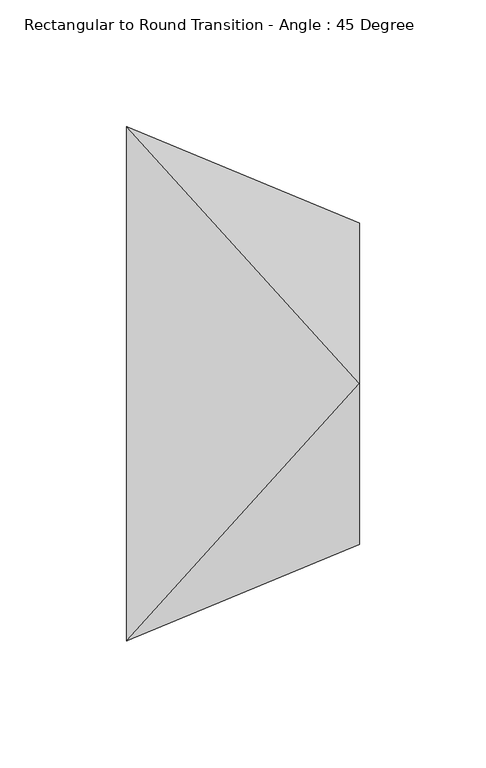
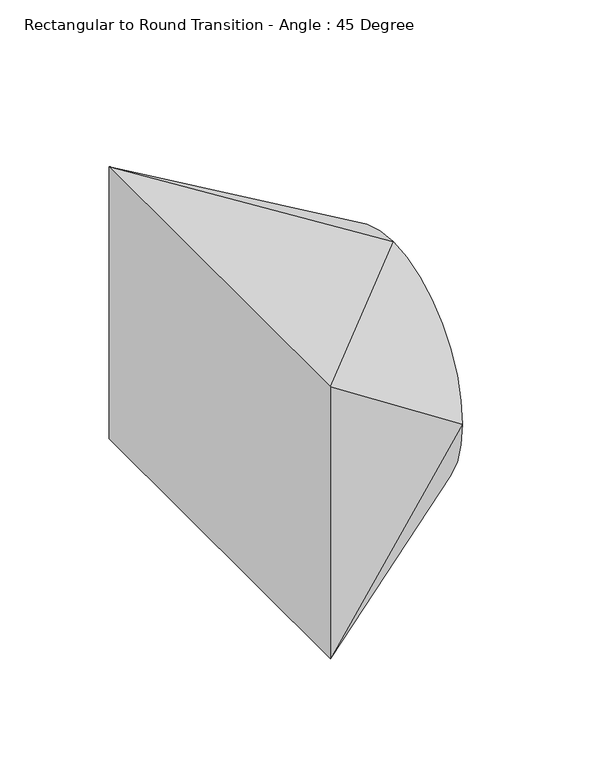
"""IFC4 building model written with IfcOpenShell, lengths in millimetres: duct fitting geometry, Rectangular to Round Transition - Angle : 45 Degree."""

from ifc_helpers import new_model, si_unit, frame, origin, place, context, project, spatial, circle_curve, source, transform, mapped, element, save
from ifc_brep_helpers import plane_surface, spline_surface, advanced_brep


def rectangular_to_round_transition_angle_45_degree_4c5d7f98(model_context):
    return source(origin(), model_context, "Body", "AdvancedBrep", [
        advanced_brep(
        [(91.9815367, 0.0, 63.5), (91.9815367, -63.5, 0.0), (91.9815367, 0.0, -63.5), (91.9815367, 63.5, 0.0), (0.0, -101.6, 76.2), (0.0, 101.6, 76.2), (0.0, 101.6, -76.2), (0.0, -101.6, -76.2)],
        [
            (0, 1, circle_curve(frame((91.9815367, 0.0, 0.0), z_axis=(1.0, 0.0, 0.0), x_axis=(0.0, 1.0, 0.0)), 63.5)),
            (1, 2, circle_curve(frame((91.9815367, 0.0, 0.0), z_axis=(1.0, 0.0, 0.0), x_axis=(0.0, 1.0, 0.0)), 63.5)),
            (2, 3, circle_curve(frame((91.9815367, 0.0, 0.0), z_axis=(1.0, 0.0, 0.0), x_axis=(0.0, 1.0, 0.0)), 63.5)),
            (3, 0, circle_curve(frame((91.9815367, 0.0, 0.0), z_axis=(1.0, 0.0, 0.0), x_axis=(0.0, 1.0, 0.0)), 63.5)),
            (4, 5),
            (5, 6),
            (6, 7),
            (7, 4),
            (0, 4),
            (4, 1),
            (7, 1),
            (7, 2),
            (6, 2),
            (6, 3),
            (5, 3),
            (5, 0),
        ],
        [
            plane_surface(frame((91.9815367, 0.0, 0.0), z_axis=(1.0, 0.0, 0.0), x_axis=(0.0, 0.0, -1.0))),
            plane_surface(frame((0.0, 0.0, 0.0), z_axis=(-1.0, 0.0, 0.0), x_axis=(0.0, 0.0, -1.0))),
            spline_surface(2, 1, [[(0.0, -101.6, 76.2), (91.9815367, 0.0, 63.5)], [(0.0, -101.6, 76.2), (91.9815367, -63.5, 63.5)], [(0.0, -101.6, 76.2), (91.9815367, -63.5, 0.0)]], [3, 3], [2, 2], [0.0, 1.0], [0.0, 1.0], weights=[[1.0, 1.0], [0.7071067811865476, 0.7071067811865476], [1.0, 1.0]]),
            plane_surface(frame((0.0, -101.6, 0.0), z_axis=(0.3826834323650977, -0.9238795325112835, 0.0), x_axis=(0.0, 0.0, -1.0))),
            spline_surface(2, 1, [[(0.0, -101.6, -76.2), (91.9815367, -63.5, 0.0)], [(0.0, -101.6, -76.2), (91.9815367, -63.5, -63.5)], [(0.0, -101.6, -76.2), (91.9815367, 0.0, -63.5)]], [3, 3], [2, 2], [0.0, 1.0], [0.0, 1.0], weights=[[1.0, 1.0], [0.7071067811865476, 0.7071067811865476], [1.0, 1.0]]),
            plane_surface(frame((0.0, 0.0, -76.2), z_axis=(0.13677363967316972, 0.0, -0.9906023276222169), x_axis=(0.0, 1.0, 0.0))),
            spline_surface(2, 1, [[(0.0, 101.6, -76.2), (91.9815367, 0.0, -63.5)], [(0.0, 101.6, -76.2), (91.9815367, 63.5, -63.5)], [(0.0, 101.6, -76.2), (91.9815367, 63.5, 0.0)]], [3, 3], [2, 2], [0.0, 1.0], [0.0, 1.0], weights=[[1.0, 1.0], [0.7071067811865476, 0.7071067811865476], [1.0, 1.0]]),
            plane_surface(frame((0.0, 101.6, 0.0), z_axis=(0.38268343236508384, 0.9238795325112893, 0.0), x_axis=(0.0, 0.0, 1.0))),
            spline_surface(2, 1, [[(0.0, 101.6, 76.2), (91.9815367, 63.5, 0.0)], [(0.0, 101.6, 76.2), (91.9815367, 63.5, 63.5)], [(0.0, 101.6, 76.2), (91.9815367, 0.0, 63.5)]], [3, 3], [2, 2], [0.0, 1.0], [0.0, 1.0], weights=[[1.0, 1.0], [0.7071067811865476, 0.7071067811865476], [1.0, 1.0]]),
            plane_surface(frame((0.0, 0.0, 76.2), z_axis=(0.13677363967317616, 0.0, 0.990602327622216), x_axis=(0.0, -1.0, 0.0))),
        ],
        [
            (0, [[1, 2, 3, 4]]),
            (1, [[5, 6, 7, 8]]),
            (2, [[-1, 9, 10]]),
            (3, [[-8, 11, -10]]),
            (4, [[-2, -11, 12]]),
            (5, [[-7, 13, -12]]),
            (6, [[-3, -13, 14]]),
            (7, [[-6, 15, -14]]),
            (8, [[-4, -15, 16]]),
            (9, [[-5, -9, -16]]),
        ],
    ),
    ])


if __name__ == "__main__":
    model = new_model("IFC4")
    model_context = context("Model", 3, world=origin())
    ifc_project = project(units=[si_unit("LENGTHUNIT", "METRE", prefix="MILLI")], contexts=[model_context])
    site = spatial("IfcSite", under=ifc_project)
    building = spatial("IfcBuilding", under=site)
    placement = place(None, origin())
    rectangular_to_round_transition_angle_45_degree_shape = rectangular_to_round_transition_angle_45_degree_4c5d7f98(model_context)
    element("IfcDuctFitting", 1, ObjectType="Rectangular to Round Transition - Angle : 45 Degree", at=placement, inside=building, context=model_context, shape_type="MappedRepresentation", body=[
        mapped(rectangular_to_round_transition_angle_45_degree_shape, transform((0.0, 0.0, 0.0), x_axis=(1.0, 0.0, 0.0), y_axis=(0.0, 1.0, 0.0), z_axis=(0.0, 0.0, 1.0))),
    ])
    save(model, "model.ifc")
